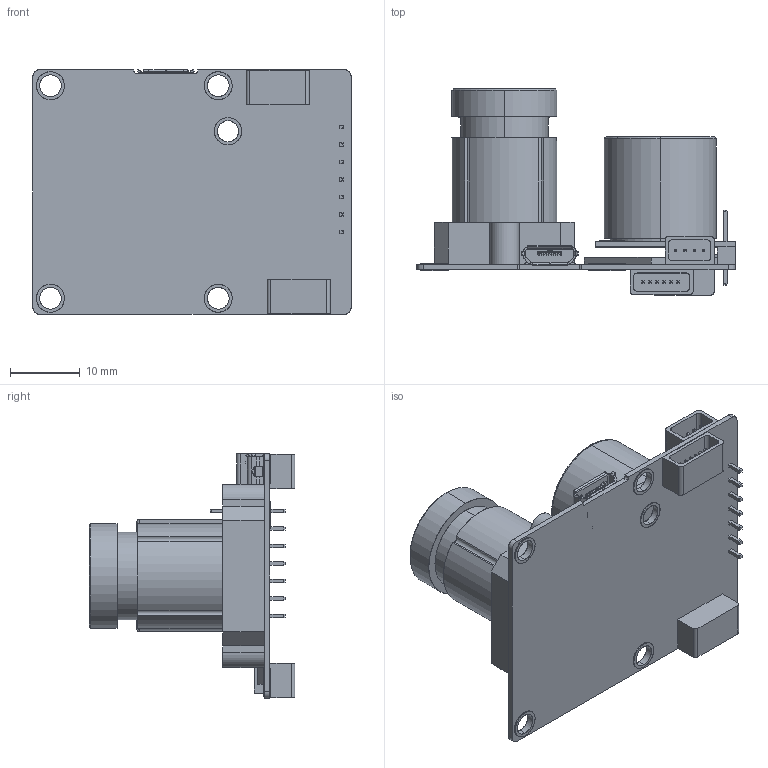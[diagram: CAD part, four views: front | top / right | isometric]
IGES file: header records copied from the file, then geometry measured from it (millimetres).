
Start section: SolidWorks IGES file using analytic representation for surfaces
Global section: file name: C:\Users\Alexandre\Dropbox\Pleiades\Solidworks - Large\Shell-Lower\PX4Flow\PX4Pilot_Assembly.IGS; native system: SolidWorks 2015; preprocessor: SolidWorks 2015; author: Alexandre; date: 151009.152052; units: millimetre
Bounding box: 45.5 x 29.45 x 35 mm (x, y, z)
Surface area: 8976.2 mm2 (no closed solid volume)
Topology: 0 solids, 0 shells, 1084 faces, 8976 edges, 8970 vertices
Faces by surface type: bspline 718, revolution 366
